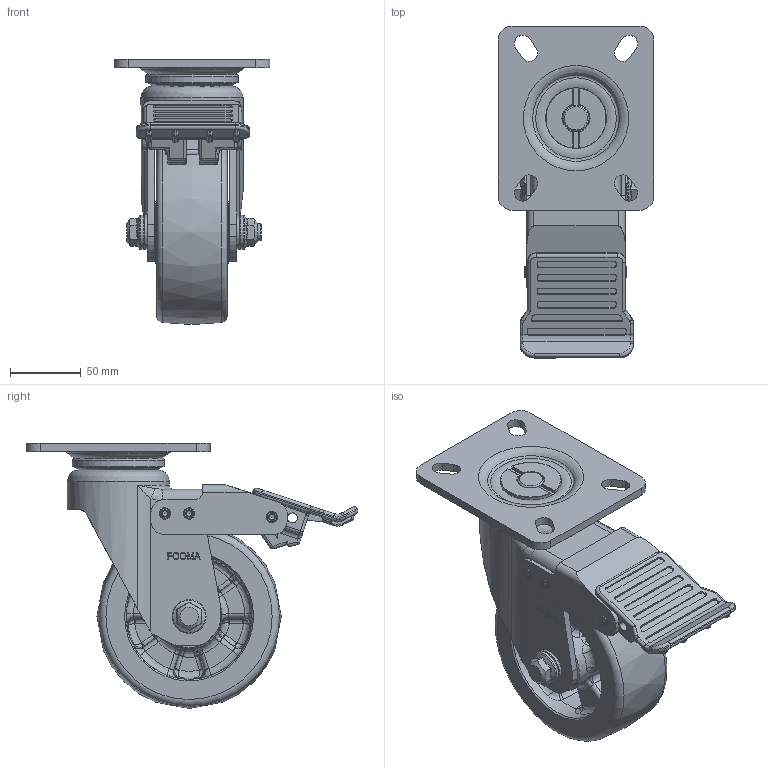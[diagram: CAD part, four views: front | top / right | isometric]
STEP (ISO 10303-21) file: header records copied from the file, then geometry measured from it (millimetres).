
FILE_DESCRIPTION((''),'2;1');
FILE_NAME('C:\Documents and Settings\Administrator\바탕 화면\3D STEP\PHW-SERIES\PHW-130\PHW-130B-SF.stp','2010-12-27T14:50:50',('Administrator'),(''),'Autodesk Inventor 2009','Autodesk Inventor 2009','');
FILE_SCHEMA(('AUTOMOTIVE_DESIGN { 1 0 10303 214 1 1 1 1 }'));
Length unit declared in the file: millimetre
Products named in the file (1): PHW-130B-SF
Bounding box: 110 x 234.12 x 186.98 mm (x, y, z)
Volume: 538189.8 mm3; surface area: 227677.1 mm2
Topology: 8 solids, 10 shells, 1545 faces, 4056 edges, 2497 vertices
Faces by surface type: bspline 517, plane 448, cylinder 395, torus 87, cone 78, sphere 20
Full cylindrical faces by diameter (mm): 3 x2, 4 x6, 6 x3, 6.1 x10, 6.5 x2, 7 x2, 8 x6, 12 x1, 15 x2, 15.2 x2, 18.5 x2, 21.5 x1, 22 x1, 24 x4, 29.9 x1, 30 x1, 30.5 x2, 31.615 x2, 35 x2, 41 x1, 42.8 x1, 44 x2, 48.961 x2, 61 x1, 62 x1, 63.14 x1, 65.14 x1, 72 x1
Entity records: 67990 total; most frequent: CARTESIAN_POINT 33688, ORIENTED_EDGE 7494, DIRECTION 6310, EDGE_CURVE 3747, VERTEX_POINT 2414, AXIS2_PLACEMENT_3D 2409, EDGE_LOOP 1821, FACE_OUTER_BOUND 1543
